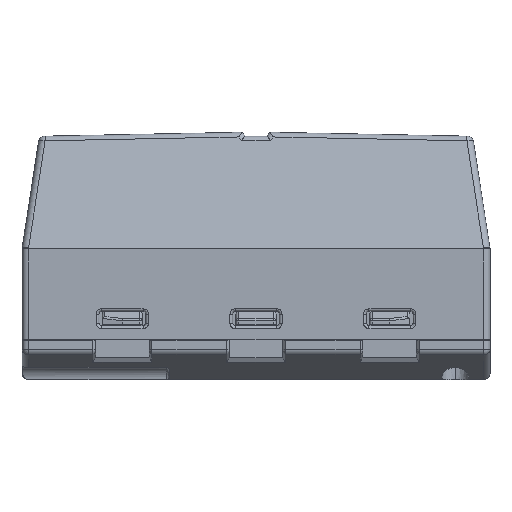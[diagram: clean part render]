
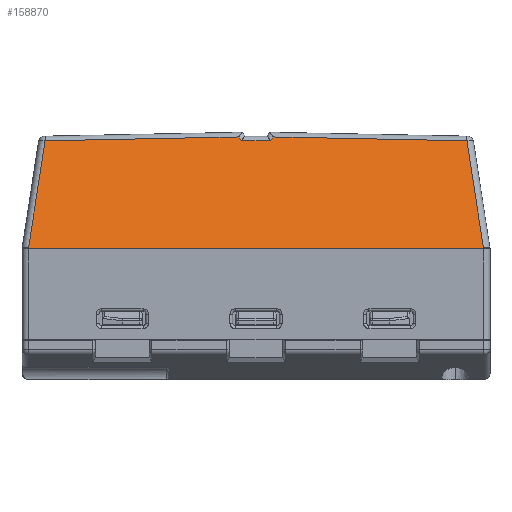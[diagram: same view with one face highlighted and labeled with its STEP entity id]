
A CAD part, top view. The second image highlights one B-rep face of the part: STEP entity #158870.
In plain terms, the highlighted planar face has unit normal (0, 0.306, 0.952).
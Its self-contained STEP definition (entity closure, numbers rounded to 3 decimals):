
#127830=CARTESIAN_POINT('',(64.729,44.564,
8.99));
#127840=VERTEX_POINT('',#127830);
#128210=CARTESIAN_POINT('',(30.702,44.564,
8.99));
#128220=VERTEX_POINT('',#128210);
#128250=CARTESIAN_POINT('',(95.431,44.564,8.99))
;
#128260=DIRECTION('',(-1.,0.,0.));
#128270=VECTOR('',#128260,1.);
#128280=LINE('',#128250,#128270);
#128290=EDGE_CURVE('',#127840,#128220,#128280,.T.);
#157400=CARTESIAN_POINT('',(31.945,52.596,
6.405));
#157410=VERTEX_POINT('',#157400);
#157440=CARTESIAN_POINT('',(24.216,2.653,
22.479));
#157450=DIRECTION('',(0.146,0.942,
-0.303));
#157460=VECTOR('',#157450,1.);
#157470=LINE('',#157440,#157460);
#157480=EDGE_CURVE('',#128220,#157410,#157470,.T.);
#158320=CARTESIAN_POINT('',(26.715,53.235,6.2));
#158330=DIRECTION('',(0.,-0.306,
-0.952));
#158340=DIRECTION('',(0.,-0.952,
0.306));
#158350=AXIS2_PLACEMENT_3D('',#158320,#158330,#158340);
#158360=PLANE('',#158350);
#158370=CARTESIAN_POINT('',(71.215,2.653,
22.479));
#158380=DIRECTION('',(0.146,-0.942,
0.303));
#158390=VECTOR('',#158380,1.);
#158400=LINE('',#158370,#158390);
#158410=CARTESIAN_POINT('',(63.486,52.596,
6.405));
#158420=VERTEX_POINT('',#158410);
#158430=EDGE_CURVE('',#158420,#127840,#158400,.T.);
#158440=ORIENTED_EDGE('',*,*,#158430,.F.);
#158450=ORIENTED_EDGE('',*,*,#128290,.F.);
#158460=ORIENTED_EDGE('',*,*,#157480,.F.);
#158470=CARTESIAN_POINT('',(95.431,53.849,6.002))
;
#158480=DIRECTION('',(1.,0.02,
-0.006));
#158490=VECTOR('',#158480,1.);
#158500=LINE('',#158470,#158490);
#158510=CARTESIAN_POINT('',(46.451,52.882,
6.313));
#158520=VERTEX_POINT('',#158510);
#158530=EDGE_CURVE('',#157410,#158520,#158500,.T.);
#158540=ORIENTED_EDGE('',*,*,#158530,.F.);
#158550=CARTESIAN_POINT('',(79.938,2.653,
22.479));
#158560=DIRECTION('',(0.536,-0.804,
0.259));
#158570=VECTOR('',#158560,1.);
#158580=LINE('',#158550,#158570);
#158590=CARTESIAN_POINT('',(46.648,52.588,
6.408));
#158600=VERTEX_POINT('',#158590);
#158610=EDGE_CURVE('',#158520,#158600,#158580,.T.);
#158620=ORIENTED_EDGE('',*,*,#158610,.F.);
#158630=CARTESIAN_POINT('',(95.431,52.588,6.408))
;
#158640=DIRECTION('',(1.,0.,0.));
#158650=VECTOR('',#158640,1.);
#158660=LINE('',#158630,#158650);
#158670=CARTESIAN_POINT('',(48.783,52.588,
6.408));
#158680=VERTEX_POINT('',#158670);
#158690=EDGE_CURVE('',#158600,#158680,#158660,.T.);
#158700=ORIENTED_EDGE('',*,*,#158690,.F.);
#158710=CARTESIAN_POINT('',(15.493,2.653,
22.479));
#158720=DIRECTION('',(0.536,0.804,
-0.259));
#158730=VECTOR('',#158720,1.);
#158740=LINE('',#158710,#158730);
#158750=CARTESIAN_POINT('',(48.979,52.882,
6.313));
#158760=VERTEX_POINT('',#158750);
#158770=EDGE_CURVE('',#158680,#158760,#158740,.T.);
#158780=ORIENTED_EDGE('',*,*,#158770,.F.);
#158790=CARTESIAN_POINT('',(95.431,51.966,6.608))
;
#158800=DIRECTION('',(1.,-0.02,
0.006));
#158810=VECTOR('',#158800,1.);
#158820=LINE('',#158790,#158810);
#158830=EDGE_CURVE('',#158760,#158420,#158820,.T.);
#158840=ORIENTED_EDGE('',*,*,#158830,.F.);
#158850=EDGE_LOOP('',(#158840,#158780,#158700,#158620,#158540,#158460,
#158450,#158440));
#158860=FACE_OUTER_BOUND('',#158850,.T.);
#158870=ADVANCED_FACE('',(#158860),#158360,.F.);
